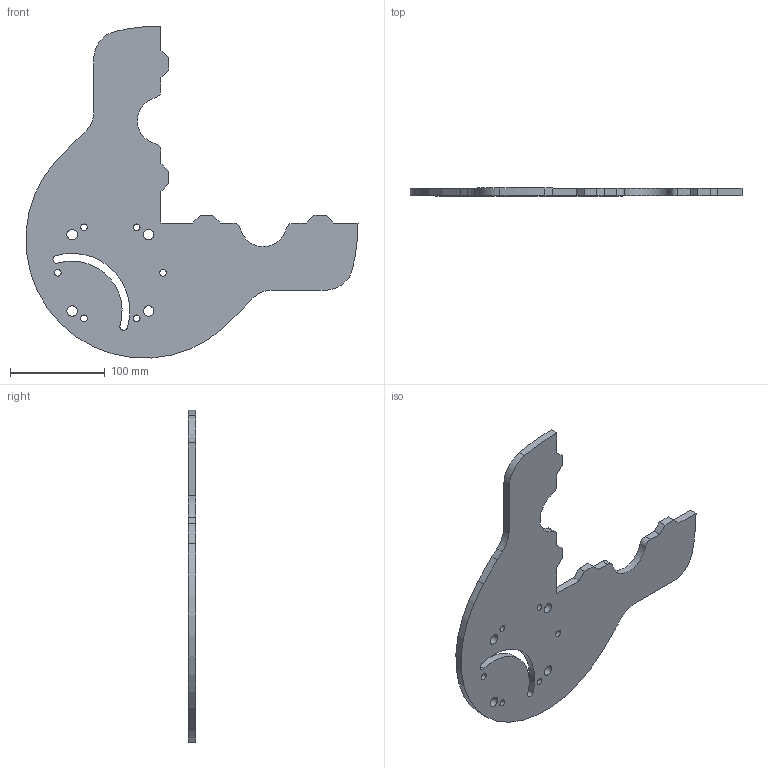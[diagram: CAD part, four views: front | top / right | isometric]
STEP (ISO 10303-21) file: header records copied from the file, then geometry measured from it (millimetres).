
FILE_DESCRIPTION(/* description */ (''),/* implementation_level */ '2;1');
FILE_NAME(/* name */ 'Part_5_ver1.step',/* time_stamp */ '2026-07-24T14:38:31+02:00',/* author */ ('dariu'),/* organization */ (''),/* preprocessor_version */ 'ST-DEVELOPER v20.1',/* originating_system */ 'Autodesk Inventor 2026',/* authorisation */ '');
FILE_SCHEMA (('AUTOMOTIVE_DESIGN { 1 0 10303 214 3 1 1 }'));
Length unit declared in the file: millimetre
Products named in the file (1): Part_5_ver1
Bounding box: 350.52 x 8 x 350.52 mm (x, y, z)
Volume: 417403.2 mm3; surface area: 119018.9 mm2
Topology: 1 solids, 1 shells, 55 faces, 159 edges, 106 vertices
Faces by surface type: cylinder 29, plane 26
Full cylindrical faces by diameter (mm): 7.1 x6, 11 x4
Entity records: 1918 total; most frequent: DIRECTION 329, CARTESIAN_POINT 321, ORIENTED_EDGE 318, EDGE_CURVE 159, AXIS2_PLACEMENT_3D 114, VERTEX_POINT 106, LINE 101, VECTOR 101
